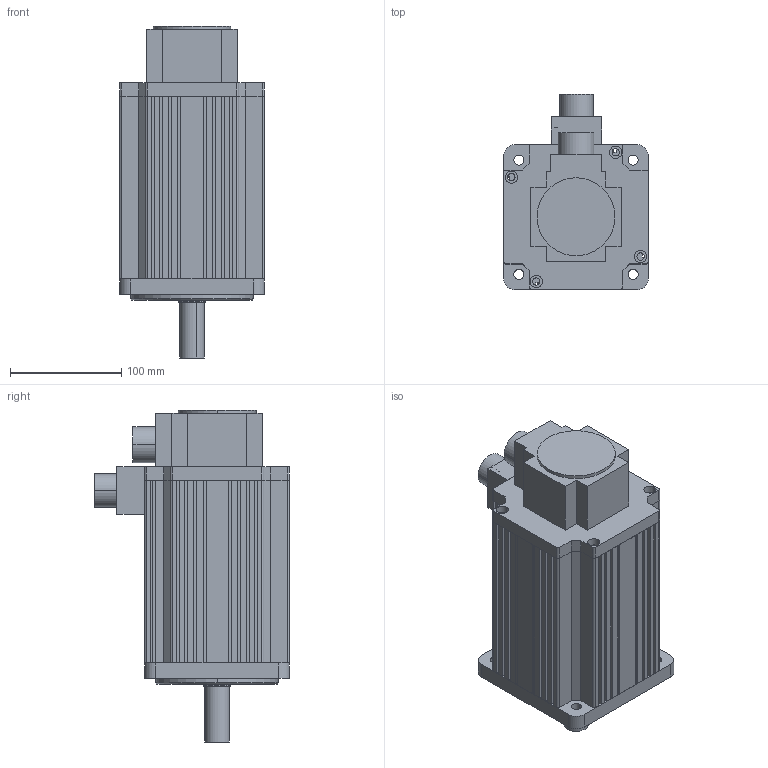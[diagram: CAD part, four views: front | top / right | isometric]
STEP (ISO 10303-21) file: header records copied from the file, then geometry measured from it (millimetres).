
FILE_DESCRIPTION (( 'STEP AP203' ), '1' );
FILE_NAME ('130-15010.STEP', '2020-03-09T13:31:03', ( '' ), ( '' ), 'SwSTEP 2.0', 'SolidWorks 2016', '' );
FILE_SCHEMA (( 'CONFIG_CONTROL_DESIGN' ));
Length unit declared in the file: millimetre
Products named in the file (8): 130-15010; 130侜督ヶ裔_1; 130瑤脣_1; 130隅赽 15籟1000; 130瑤脣2_1; 130粣_1; 130侜督綴裔_1; 130晤鎢ん_1
Assembly tree (7 placements, depth 2):
  130-15010
    130隅赽 15籟1000
    130侜督綴裔_1
    130侜督ヶ裔_1
    130粣_1
    130晤鎢ん_1
    130瑤脣_1
    130瑤脣2_1
Bounding box: 130 x 175 x 298 mm (x, y, z)
Volume: 1236904 mm3; surface area: 360147.8 mm2
Topology: 8 solids, 8 shells, 523 faces, 1317 edges, 862 vertices
Faces by surface type: plane 332, cylinder 175, cone 10, bspline 6
Entity records: 16612 total; most frequent: CARTESIAN_POINT 2852, DIRECTION 2733, ORIENTED_EDGE 2618, EDGE_CURVE 1309, VECTOR 911, AXIS2_PLACEMENT_3D 911, LINE 911, VERTEX_POINT 862
